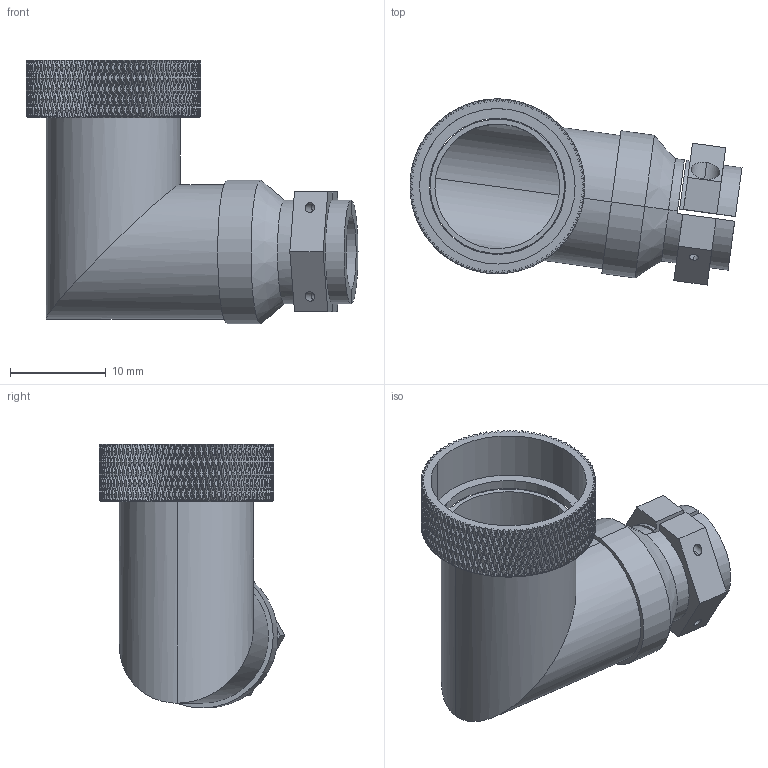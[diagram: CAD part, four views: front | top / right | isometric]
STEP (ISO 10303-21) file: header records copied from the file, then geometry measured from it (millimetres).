
FILE_DESCRIPTION (( 'STEP AP203' ), '1' );
FILE_NAME ('aviation plug GX16-6 angle.STEP', '2021-09-21T15:02:36', ( '' ), ( '' ), 'SwSTEP 2.0', 'SolidWorks 2016', '' );
FILE_SCHEMA (( 'CONFIG_CONTROL_DESIGN' ));
Length unit declared in the file: millimetre
Products named in the file (1): aviation plug GX16-6 angle
Bounding box: 34.6 x 19.36 x 27.5 mm (x, y, z)
Volume: 1512.5 mm3; surface area: 4605.6 mm2
Topology: 3 solids, 3 shells, 2769 faces, 6020 edges, 3260 vertices
Faces by surface type: bspline 2160, cylinder 576, plane 27, cone 4, torus 2
Entity records: 84938 total; most frequent: CARTESIAN_POINT 49640, ORIENTED_EDGE 12040, EDGE_CURVE 6020, VERTEX_POINT 3260, EDGE_LOOP 2784, FACE_OUTER_BOUND 2769, ADVANCED_FACE 2769, DIRECTION 1967
